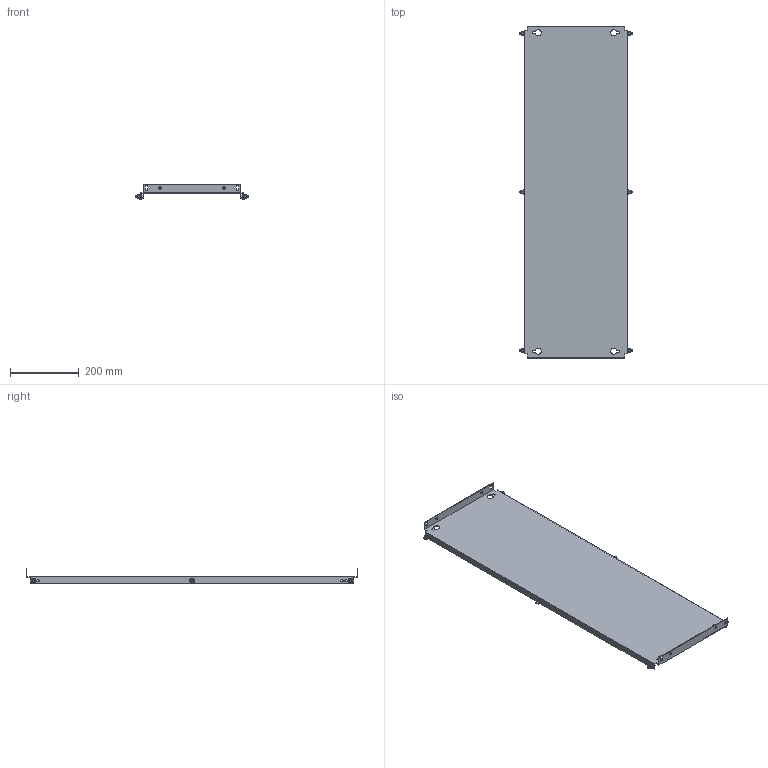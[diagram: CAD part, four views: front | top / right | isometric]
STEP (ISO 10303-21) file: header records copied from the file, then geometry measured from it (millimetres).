
FILE_DESCRIPTION(('Open CASCADE Model'),'2;1');
FILE_NAME('Open CASCADE Shape Model','2025-02-20T13:24:50',('Author'),( 'Open CASCADE'),'Open CASCADE STEP processor 7.8','Open CASCADE 7.8' ,'Unknown');
FILE_SCHEMA(('AUTOMOTIVE_DESIGN { 1 0 10303 214 1 1 1 1 }'));
Length unit declared in the file: millimetre
Products named in the file (4): Compound1; Solid1; Solid2; Solid3
Assembly tree (13 placements, depth 2):
  Compound1
    Solid1
    Solid2  x6
    Solid3  x6
Bounding box: 328 x 969 x 43 mm (x, y, z)
Volume: 677180.6 mm3; surface area: 682773.3 mm2
Topology: 13 solids, 13 shells, 422 faces, 1010 edges, 620 vertices
Faces by surface type: plane 192, cone 102, bspline 72, cylinder 38, torus 18
Full cylindrical faces by diameter (mm): 5 x6, 6 x12, 7 x16
Entity records: 5048 total; most frequent: CARTESIAN_POINT 1397, ORIENTED_EDGE 770, DIRECTION 664, EDGE_CURVE 385, VERTEX_POINT 250, AXIS2_PLACEMENT_3D 224, LINE 216, VECTOR 216
